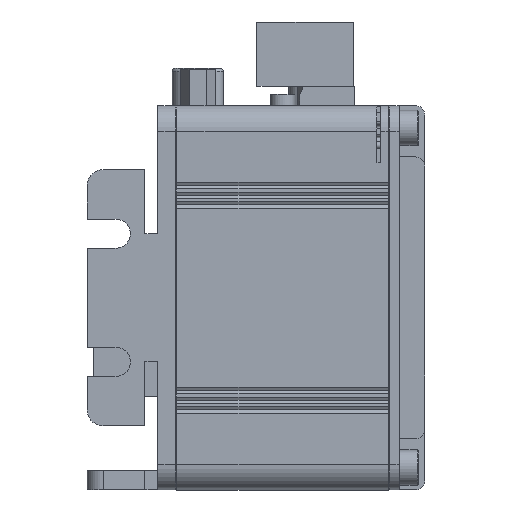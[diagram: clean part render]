
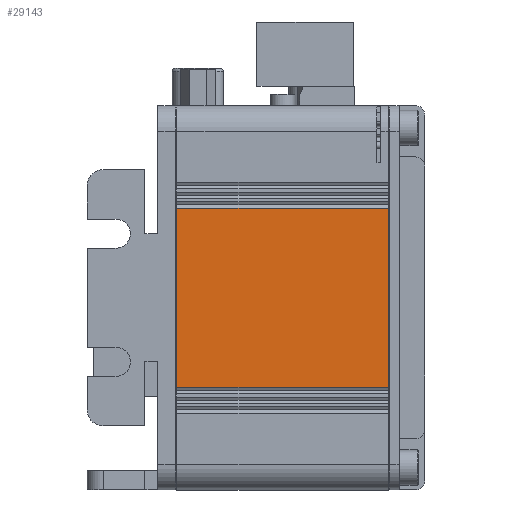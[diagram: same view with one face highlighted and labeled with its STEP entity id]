
A CAD part, left-side view. The second image highlights one B-rep face of the part: STEP entity #29143.
In plain terms, the highlighted planar face has unit normal (-1, 0, 0).
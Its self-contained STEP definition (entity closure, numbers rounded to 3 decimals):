
#4867=ORIENTED_EDGE('',*,*,#9120,.T.);
#4868=ORIENTED_EDGE('',*,*,#9121,.F.);
#4869=ORIENTED_EDGE('',*,*,#8455,.F.);
#4870=ORIENTED_EDGE('',*,*,#9122,.T.);
#8455=EDGE_CURVE('',#11005,#11006,#12925,.T.);
#9120=EDGE_CURVE('',#11383,#11384,#13495,.T.);
#9121=EDGE_CURVE('',#11006,#11384,#13496,.T.);
#9122=EDGE_CURVE('',#11005,#11383,#13497,.T.);
#11005=VERTEX_POINT('',#41050);
#11006=VERTEX_POINT('',#41052);
#11383=VERTEX_POINT('',#43389);
#11384=VERTEX_POINT('',#43390);
#12925=LINE('',#41051,#15066);
#13495=LINE('',#43388,#15636);
#13496=LINE('',#43391,#15637);
#13497=LINE('',#43392,#15638);
#15066=VECTOR('',#34021,1000.);
#15636=VECTOR('',#35225,1000.);
#15637=VECTOR('',#35226,1000.);
#15638=VECTOR('',#35227,1000.);
#17041=EDGE_LOOP('',(#4867,#4868,#4869,#4870));
#18507=FACE_BOUND('',#17041,.T.);
#19664=PLANE('',#30719);
#29143=ADVANCED_FACE('',(#18507),#19664,.F.);
#30719=AXIS2_PLACEMENT_3D('',#43387,#35223,#35224);
#34021=DIRECTION('',(0.,0.,-1.));
#35223=DIRECTION('',(1.,0.,0.));
#35224=DIRECTION('',(0.,1.,0.));
#35225=DIRECTION('',(0.,0.,-1.));
#35226=DIRECTION('',(0.,1.,0.));
#35227=DIRECTION('',(0.,1.,0.));
#41050=CARTESIAN_POINT('',(-30.,-33.,44.));
#41051=CARTESIAN_POINT('',(-30.,-33.,44.));
#41052=CARTESIAN_POINT('',(-30.,-33.,16.));
#43387=CARTESIAN_POINT('',(-30.,-33.,44.));
#43388=CARTESIAN_POINT('',(-30.,0.,44.));
#43389=CARTESIAN_POINT('',(-30.,0.,44.));
#43390=CARTESIAN_POINT('',(-30.,0.,16.));
#43391=CARTESIAN_POINT('',(-30.,-33.,16.));
#43392=CARTESIAN_POINT('',(-30.,-33.,44.));
